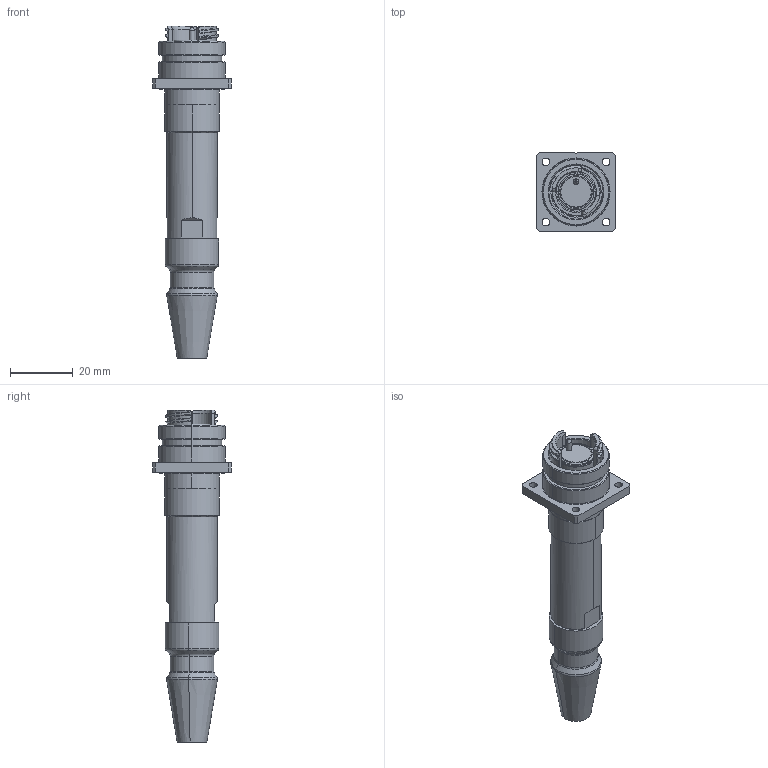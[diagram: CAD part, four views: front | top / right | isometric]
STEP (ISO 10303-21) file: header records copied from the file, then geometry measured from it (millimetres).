
FILE_DESCRIPTION (( 'STEP AP214' ), '1' );
FILE_NAME ('QMICRO-RFXX-XXXX-S95.STEP', '2025-05-02T23:44:28', ( '' ), ( '' ), 'SwSTEP 2.0', 'SolidWorks 2024', '' );
FILE_SCHEMA (( 'AUTOMOTIVE_DESIGN' ));
Length unit declared in the file: inch
Products named in the file (1): QMICRO-RFXX-XXXX-S95
Bounding box: 25.25 x 25.25 x 106.25 mm (x, y, z)
Volume: 20226.4 mm3; surface area: 9701.4 mm2
Topology: 1 solids, 3 shells, 241 faces, 572 edges, 356 vertices
Faces by surface type: cylinder 90, cone 54, plane 47, torus 30, bspline 20
Entity records: 11582 total; most frequent: CARTESIAN_POINT 6151, ORIENTED_EDGE 1144, DIRECTION 1141, EDGE_CURVE 572, AXIS2_PLACEMENT_3D 478, VERTEX_POINT 356, EDGE_LOOP 270, CIRCLE 256
